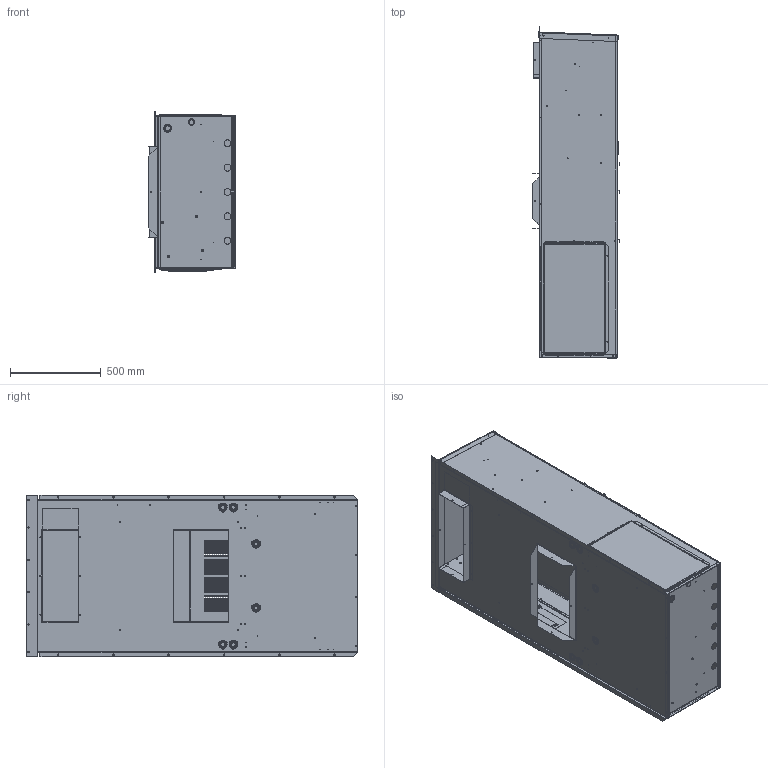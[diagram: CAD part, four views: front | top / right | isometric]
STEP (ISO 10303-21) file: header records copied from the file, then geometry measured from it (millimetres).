
FILE_DESCRIPTION (( 'STEP AP203' ), '1' );
FILE_NAME ('STEP_200.STEP', '2016-06-15T18:49:34', ( '' ), ( '' ), 'SwSTEP 2.0', 'SolidWorks 2016', '' );
FILE_SCHEMA (( 'CONFIG_CONTROL_DESIGN' ));
Length unit declared in the file: inch
Products named in the file (1): STEP_200
Bounding box: 478.23 x 1826.51 x 890.69 mm (x, y, z)
Surface area: 11257729.6 mm2 (no closed solid volume)
Topology: 0 solids, 75 shells, 867 faces, 4621 edges, 3700 vertices
Faces by surface type: plane 418, cylinder 287, torus 154, bspline 6, cone 2
Entity records: 50275 total; most frequent: CARTESIAN_POINT 12951, DIRECTION 8146, ORIENTED_EDGE 6089, EDGE_CURVE 4621, VERTEX_POINT 3700, AXIS2_PLACEMENT_3D 2903, LINE 2340, VECTOR 2340
